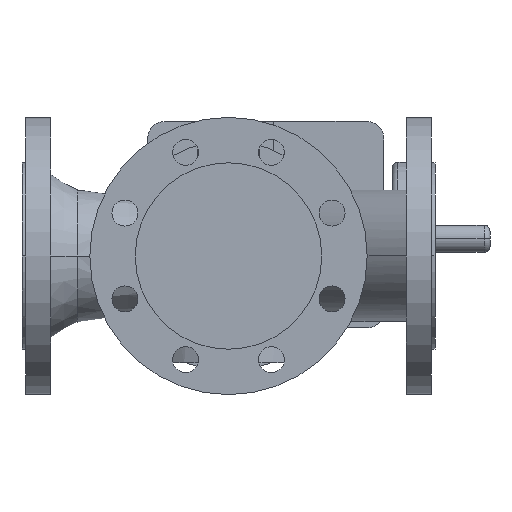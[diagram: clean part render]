
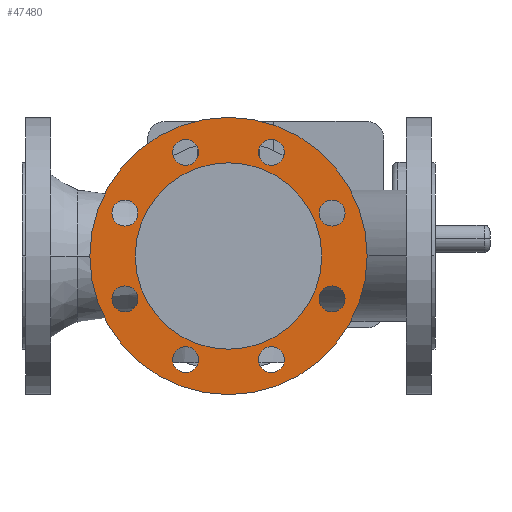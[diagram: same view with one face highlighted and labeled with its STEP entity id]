
A CAD part, front view. The second image highlights one B-rep face of the part: STEP entity #47480.
In plain terms, the highlighted planar face has unit normal (0, -1, 0).
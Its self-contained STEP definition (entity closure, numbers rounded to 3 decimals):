
#3680=CARTESIAN_POINT('',(96.,-147.,0.));
#3690=VERTEX_POINT('',#3680);
#3870=CARTESIAN_POINT('',(254.,-147.,0.));
#3880=VERTEX_POINT('',#3870);
#3910=CARTESIAN_POINT('',(175.,-147.,0.));
#3920=DIRECTION('',(0.,-1.,0.));
#3930=DIRECTION('',(1.,0.,0.));
#3940=AXIS2_PLACEMENT_3D('',#3910,#3920,#3930);
#3950=CIRCLE('',#3940,79.);
#3960=EDGE_CURVE('',#3690,#3880,#3950,.T.);
#10830=CARTESIAN_POINT('',(292.5,-147.,0.));
#10840=VERTEX_POINT('',#10830);
#11000=CARTESIAN_POINT('',(57.5,-147.,0.));
#11010=VERTEX_POINT('',#11000);
#11040=CARTESIAN_POINT('',(175.,-147.,0.));
#11050=DIRECTION('',(0.,1.,0.));
#11060=DIRECTION('',(1.,0.,0.));
#11070=AXIS2_PLACEMENT_3D('',#11040,#11050,#11060);
#11080=CIRCLE('',#11070,117.5);
#11090=EDGE_CURVE('',#10840,#11010,#11080,.T.);
#11250=CARTESIAN_POINT('',(251.769,-147.,-36.355));
#11260=VERTEX_POINT('',#11250);
#11290=CARTESIAN_POINT('',(262.769,-147.,-36.355));
#11300=DIRECTION('',(0.,1.,0.));
#11310=DIRECTION('',(1.,0.,0.));
#11320=AXIS2_PLACEMENT_3D('',#11290,#11300,#11310);
#11330=CIRCLE('',#11320,11.);
#11340=CARTESIAN_POINT('',(273.769,-147.,-36.355));
#11350=VERTEX_POINT('',#11340);
#11360=EDGE_CURVE('',#11260,#11350,#11330,.T.);
#11670=CARTESIAN_POINT('',(273.769,-147.,36.355));
#11680=VERTEX_POINT('',#11670);
#11710=CARTESIAN_POINT('',(262.769,-147.,36.355));
#11720=DIRECTION('',(0.,1.,0.));
#11730=DIRECTION('',(1.,0.,0.));
#11740=AXIS2_PLACEMENT_3D('',#11710,#11720,#11730);
#11750=CIRCLE('',#11740,11.);
#11760=CARTESIAN_POINT('',(251.769,-147.,36.355));
#11770=VERTEX_POINT('',#11760);
#11780=EDGE_CURVE('',#11680,#11770,#11750,.T.);
#12090=CARTESIAN_POINT('',(200.355,-147.,-87.769));
#12100=VERTEX_POINT('',#12090);
#12130=CARTESIAN_POINT('',(211.355,-147.,-87.769));
#12140=DIRECTION('',(0.,1.,0.));
#12150=DIRECTION('',(1.,0.,0.));
#12160=AXIS2_PLACEMENT_3D('',#12130,#12140,#12150);
#12170=CIRCLE('',#12160,11.);
#12180=CARTESIAN_POINT('',(222.355,-147.,-87.769));
#12190=VERTEX_POINT('',#12180);
#12200=EDGE_CURVE('',#12100,#12190,#12170,.T.);
#12510=CARTESIAN_POINT('',(200.355,-147.,87.769));
#12520=VERTEX_POINT('',#12510);
#12680=CARTESIAN_POINT('',(222.355,-147.,87.769));
#12690=VERTEX_POINT('',#12680);
#12720=CARTESIAN_POINT('',(211.355,-147.,87.769));
#12730=DIRECTION('',(0.,1.,0.));
#12740=DIRECTION('',(1.,0.,0.));
#12750=AXIS2_PLACEMENT_3D('',#12720,#12730,#12740);
#12760=CIRCLE('',#12750,11.);
#12770=EDGE_CURVE('',#12690,#12520,#12760,.T.);
#12930=CARTESIAN_POINT('',(127.645,-147.,-87.769));
#12940=VERTEX_POINT('',#12930);
#13100=CARTESIAN_POINT('',(149.645,-147.,-87.769));
#13110=VERTEX_POINT('',#13100);
#13140=CARTESIAN_POINT('',(138.645,-147.,-87.769));
#13150=DIRECTION('',(0.,1.,0.));
#13160=DIRECTION('',(1.,0.,0.));
#13170=AXIS2_PLACEMENT_3D('',#13140,#13150,#13160);
#13180=CIRCLE('',#13170,11.);
#13190=EDGE_CURVE('',#13110,#12940,#13180,.T.);
#13350=CARTESIAN_POINT('',(149.645,-147.,87.769));
#13360=VERTEX_POINT('',#13350);
#13390=CARTESIAN_POINT('',(138.645,-147.,87.769));
#13400=DIRECTION('',(0.,1.,0.));
#13410=DIRECTION('',(1.,0.,0.));
#13420=AXIS2_PLACEMENT_3D('',#13390,#13400,#13410);
#13430=CIRCLE('',#13420,11.);
#13440=CARTESIAN_POINT('',(127.645,-147.,87.769));
#13450=VERTEX_POINT('',#13440);
#13460=EDGE_CURVE('',#13360,#13450,#13430,.T.);
#13770=CARTESIAN_POINT('',(76.231,-147.,-36.355));
#13780=VERTEX_POINT('',#13770);
#13810=CARTESIAN_POINT('',(87.231,-147.,-36.355));
#13820=DIRECTION('',(0.,1.,0.));
#13830=DIRECTION('',(1.,0.,0.));
#13840=AXIS2_PLACEMENT_3D('',#13810,#13820,#13830);
#13850=CIRCLE('',#13840,11.);
#13860=CARTESIAN_POINT('',(98.231,-147.,-36.355));
#13870=VERTEX_POINT('',#13860);
#13880=EDGE_CURVE('',#13780,#13870,#13850,.T.);
#14190=CARTESIAN_POINT('',(98.231,-147.,36.355));
#14200=VERTEX_POINT('',#14190);
#14360=CARTESIAN_POINT('',(76.231,-147.,36.355));
#14370=VERTEX_POINT('',#14360);
#14400=CARTESIAN_POINT('',(87.231,-147.,36.355));
#14410=DIRECTION('',(0.,1.,0.));
#14420=DIRECTION('',(1.,0.,0.));
#14430=AXIS2_PLACEMENT_3D('',#14400,#14410,#14420);
#14440=CIRCLE('',#14430,11.);
#14450=EDGE_CURVE('',#14370,#14200,#14440,.T.);
#46930=CARTESIAN_POINT('',(175.,-147.,0.));
#46940=DIRECTION('',(0.,1.,0.));
#46950=DIRECTION('',(0.,0.,1.));
#46960=AXIS2_PLACEMENT_3D('',#46930,#46940,#46950);
#46970=PLANE('',#46960);
#46980=EDGE_CURVE('',#14200,#14370,#14440,.T.);
#46990=ORIENTED_EDGE('',*,*,#46980,.T.);
#47000=ORIENTED_EDGE('',*,*,#14450,.T.);
#47010=EDGE_LOOP('',(#47000,#46990));
#47020=FACE_BOUND('',#47010,.T.);
#47030=ORIENTED_EDGE('',*,*,#13880,.T.);
#47040=EDGE_CURVE('',#13870,#13780,#13850,.T.);
#47050=ORIENTED_EDGE('',*,*,#47040,.T.);
#47060=EDGE_LOOP('',(#47050,#47030));
#47070=FACE_BOUND('',#47060,.T.);
#47080=EDGE_CURVE('',#13450,#13360,#13430,.T.);
#47090=ORIENTED_EDGE('',*,*,#47080,.T.);
#47100=ORIENTED_EDGE('',*,*,#13460,.T.);
#47110=EDGE_LOOP('',(#47100,#47090));
#47120=FACE_BOUND('',#47110,.T.);
#47130=EDGE_CURVE('',#12940,#13110,#13180,.T.);
#47140=ORIENTED_EDGE('',*,*,#47130,.T.);
#47150=ORIENTED_EDGE('',*,*,#13190,.T.);
#47160=EDGE_LOOP('',(#47150,#47140));
#47170=FACE_BOUND('',#47160,.T.);
#47180=EDGE_CURVE('',#12520,#12690,#12760,.T.);
#47190=ORIENTED_EDGE('',*,*,#47180,.T.);
#47200=ORIENTED_EDGE('',*,*,#12770,.T.);
#47210=EDGE_LOOP('',(#47200,#47190));
#47220=FACE_BOUND('',#47210,.T.);
#47230=ORIENTED_EDGE('',*,*,#12200,.T.);
#47240=EDGE_CURVE('',#12190,#12100,#12170,.T.);
#47250=ORIENTED_EDGE('',*,*,#47240,.T.);
#47260=EDGE_LOOP('',(#47250,#47230));
#47270=FACE_BOUND('',#47260,.T.);
#47280=EDGE_CURVE('',#11770,#11680,#11750,.T.);
#47290=ORIENTED_EDGE('',*,*,#47280,.T.);
#47300=ORIENTED_EDGE('',*,*,#11780,.T.);
#47310=EDGE_LOOP('',(#47300,#47290));
#47320=FACE_BOUND('',#47310,.T.);
#47330=EDGE_CURVE('',#11350,#11260,#11330,.T.);
#47340=ORIENTED_EDGE('',*,*,#47330,.T.);
#47350=ORIENTED_EDGE('',*,*,#11360,.T.);
#47360=EDGE_LOOP('',(#47350,#47340));
#47370=FACE_BOUND('',#47360,.T.);
#47380=EDGE_CURVE('',#11010,#10840,#11080,.T.);
#47390=ORIENTED_EDGE('',*,*,#47380,.F.);
#47400=ORIENTED_EDGE('',*,*,#11090,.F.);
#47410=EDGE_LOOP('',(#47400,#47390));
#47420=FACE_OUTER_BOUND('',#47410,.T.);
#47430=EDGE_CURVE('',#3880,#3690,#3950,.T.);
#47440=ORIENTED_EDGE('',*,*,#47430,.F.);
#47450=ORIENTED_EDGE('',*,*,#3960,.F.);
#47460=EDGE_LOOP('',(#47450,#47440));
#47470=FACE_BOUND('',#47460,.T.);
#47480=ADVANCED_FACE('',(#47020,#47070,#47120,#47170,#47220,#47270,
#47320,#47370,#47420,#47470),#46970,.F.);
